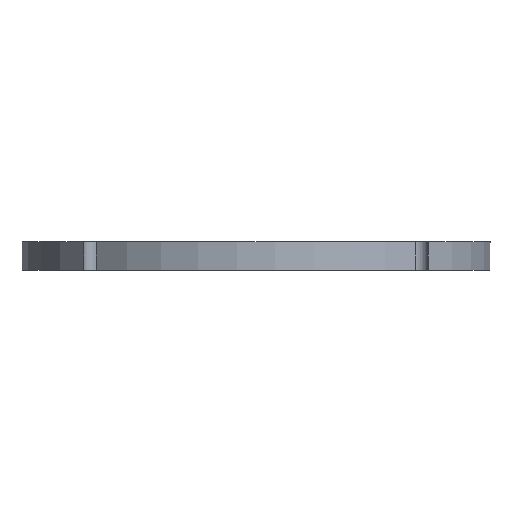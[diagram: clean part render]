
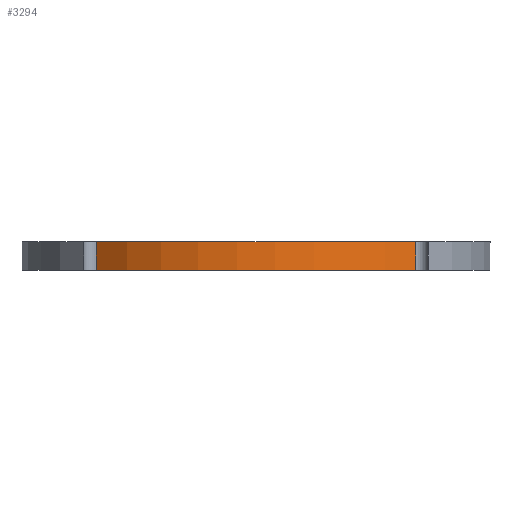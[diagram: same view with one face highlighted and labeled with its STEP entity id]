
A CAD part, front view. The second image highlights one B-rep face of the part: STEP entity #3294.
In plain terms, the highlighted cylindrical face has radius 33 mm (diameter 66 mm), a partial arc.
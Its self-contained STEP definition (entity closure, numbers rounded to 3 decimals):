
#71 = PLANE('',#72);
#72 = AXIS2_PLACEMENT_3D('',#73,#74,#75);
#73 = CARTESIAN_POINT('',(0.,0.,0.));
#74 = DIRECTION('',(0.,0.,1.));
#75 = DIRECTION('',(1.,0.,-0.));
#124 = PLANE('',#125);
#125 = AXIS2_PLACEMENT_3D('',#126,#127,#128);
#126 = CARTESIAN_POINT('',(0.,0.,4.));
#127 = DIRECTION('',(0.,0.,1.));
#128 = DIRECTION('',(1.,0.,-0.));
#283 = VERTEX_POINT('',#284);
#284 = CARTESIAN_POINT('',(-22.421,-24.214,4.));
#303 = CYLINDRICAL_SURFACE('',#304,1.6);
#304 = AXIS2_PLACEMENT_3D('',#305,#306,#307);
#305 = CARTESIAN_POINT('',(-22.627,-22.627,-1.));
#306 = DIRECTION('',(0.,0.,1.));
#307 = DIRECTION('',(1.,0.,-0.));
#315 = EDGE_CURVE('',#316,#283,#318,.T.);
#316 = VERTEX_POINT('',#317);
#317 = CARTESIAN_POINT('',(22.421,-24.214,4.));
#318 = SURFACE_CURVE('',#319,(#324,#335),.PCURVE_S1.);
#319 = CIRCLE('',#320,33.);
#320 = AXIS2_PLACEMENT_3D('',#321,#322,#323);
#321 = CARTESIAN_POINT('',(0.,0.,4.));
#322 = DIRECTION('',(0.,0.,-1.));
#323 = DIRECTION('',(0.734,0.679,0.));
#324 = PCURVE('',#124,#325);
#325 = DEFINITIONAL_REPRESENTATION('',(#326),#334);
#326 = ( BOUNDED_CURVE() B_SPLINE_CURVE(2,(#327,#328,#329,#330,#331,#332
,#333),.UNSPECIFIED.,.T.,.F.) B_SPLINE_CURVE_WITH_KNOTS((1,2,2,2,2,1),(
    -2.094,0.,2.094,4.189,6.283,
8.378),.UNSPECIFIED.) CURVE() GEOMETRIC_REPRESENTATION_ITEM() 
RATIONAL_B_SPLINE_CURVE((1.,0.5,1.,0.5,1.,0.5,1.)) REPRESENTATION_ITEM(
  '') );
#327 = CARTESIAN_POINT('',(24.214,22.421));
#328 = CARTESIAN_POINT('',(63.048,-19.519));
#329 = CARTESIAN_POINT('',(7.31,-32.18));
#330 = CARTESIAN_POINT('',(-48.428,-44.841));
#331 = CARTESIAN_POINT('',(-31.524,9.76));
#332 = CARTESIAN_POINT('',(-14.62,64.36));
#333 = CARTESIAN_POINT('',(24.214,22.421));
#334 = ( GEOMETRIC_REPRESENTATION_CONTEXT(2) 
PARAMETRIC_REPRESENTATION_CONTEXT() REPRESENTATION_CONTEXT('2D SPACE',''
  ) );
#335 = PCURVE('',#336,#341);
#336 = CYLINDRICAL_SURFACE('',#337,33.);
#337 = AXIS2_PLACEMENT_3D('',#338,#339,#340);
#338 = CARTESIAN_POINT('',(0.,0.,0.));
#339 = DIRECTION('',(0.,0.,1.));
#340 = DIRECTION('',(1.,0.,-0.));
#341 = DEFINITIONAL_REPRESENTATION('',(#342),#346);
#342 = LINE('',#343,#344);
#343 = CARTESIAN_POINT('',(7.03,4.));
#344 = VECTOR('',#345,1.);
#345 = DIRECTION('',(-1.,-0.));
#346 = ( GEOMETRIC_REPRESENTATION_CONTEXT(2) 
PARAMETRIC_REPRESENTATION_CONTEXT() REPRESENTATION_CONTEXT('2D SPACE',''
  ) );
#365 = CYLINDRICAL_SURFACE('',#366,1.6);
#366 = AXIS2_PLACEMENT_3D('',#367,#368,#369);
#367 = CARTESIAN_POINT('',(22.627,-22.627,-1.));
#368 = DIRECTION('',(0.,0.,1.));
#369 = DIRECTION('',(1.,0.,-0.));
#3121 = VERTEX_POINT('',#3122);
#3122 = CARTESIAN_POINT('',(-22.421,-24.214,0.));
#3144 = EDGE_CURVE('',#3121,#3145,#3147,.T.);
#3145 = VERTEX_POINT('',#3146);
#3146 = CARTESIAN_POINT('',(22.421,-24.214,0.));
#3147 = SURFACE_CURVE('',#3148,(#3153,#3160),.PCURVE_S1.);
#3148 = CIRCLE('',#3149,33.);
#3149 = AXIS2_PLACEMENT_3D('',#3150,#3151,#3152);
#3150 = CARTESIAN_POINT('',(0.,0.,0.));
#3151 = DIRECTION('',(0.,-0.,1.));
#3152 = DIRECTION('',(0.679,0.734,0.));
#3153 = PCURVE('',#71,#3154);
#3154 = DEFINITIONAL_REPRESENTATION('',(#3155),#3159);
#3155 = CIRCLE('',#3156,33.);
#3156 = AXIS2_PLACEMENT_2D('',#3157,#3158);
#3157 = CARTESIAN_POINT('',(0.,0.));
#3158 = DIRECTION('',(0.679,0.734));
#3159 = ( GEOMETRIC_REPRESENTATION_CONTEXT(2) 
PARAMETRIC_REPRESENTATION_CONTEXT() REPRESENTATION_CONTEXT('2D SPACE',''
  ) );
#3160 = PCURVE('',#336,#3161);
#3161 = DEFINITIONAL_REPRESENTATION('',(#3162),#3166);
#3162 = LINE('',#3163,#3164);
#3163 = CARTESIAN_POINT('',(0.824,0.));
#3164 = VECTOR('',#3165,1.);
#3165 = DIRECTION('',(1.,0.));
#3166 = ( GEOMETRIC_REPRESENTATION_CONTEXT(2) 
PARAMETRIC_REPRESENTATION_CONTEXT() REPRESENTATION_CONTEXT('2D SPACE',''
  ) );
#3275 = EDGE_CURVE('',#3145,#316,#3276,.T.);
#3276 = SURFACE_CURVE('',#3277,(#3281,#3287),.PCURVE_S1.);
#3277 = LINE('',#3278,#3279);
#3278 = CARTESIAN_POINT('',(22.421,-24.214,0.));
#3279 = VECTOR('',#3280,1.);
#3280 = DIRECTION('',(0.,0.,1.));
#3281 = PCURVE('',#365,#3282);
#3282 = DEFINITIONAL_REPRESENTATION('',(#3283),#3286);
#3283 = B_SPLINE_CURVE_WITH_KNOTS('',1,(#3284,#3285),.UNSPECIFIED.,.F.,
  .F.,(2,2),(0.,4.),.PIECEWISE_BEZIER_KNOTS.);
#3284 = CARTESIAN_POINT('',(4.583,1.));
#3285 = CARTESIAN_POINT('',(4.583,5.));
#3286 = ( GEOMETRIC_REPRESENTATION_CONTEXT(2) 
PARAMETRIC_REPRESENTATION_CONTEXT() REPRESENTATION_CONTEXT('2D SPACE',''
  ) );
#3287 = PCURVE('',#336,#3288);
#3288 = DEFINITIONAL_REPRESENTATION('',(#3289),#3292);
#3289 = B_SPLINE_CURVE_WITH_KNOTS('',1,(#3290,#3291),.UNSPECIFIED.,.F.,
  .F.,(2,2),(0.,4.),.PIECEWISE_BEZIER_KNOTS.);
#3290 = CARTESIAN_POINT('',(5.459,0.));
#3291 = CARTESIAN_POINT('',(5.459,4.));
#3292 = ( GEOMETRIC_REPRESENTATION_CONTEXT(2) 
PARAMETRIC_REPRESENTATION_CONTEXT() REPRESENTATION_CONTEXT('2D SPACE',''
  ) );
#3294 = ADVANCED_FACE('',(#3295),#336,.T.);
#3295 = FACE_BOUND('',#3296,.T.);
#3296 = EDGE_LOOP('',(#3297,#3316,#3317,#3318));
#3297 = ORIENTED_EDGE('',*,*,#3298,.F.);
#3298 = EDGE_CURVE('',#3121,#283,#3299,.T.);
#3299 = SURFACE_CURVE('',#3300,(#3304,#3310),.PCURVE_S1.);
#3300 = LINE('',#3301,#3302);
#3301 = CARTESIAN_POINT('',(-22.421,-24.214,0.));
#3302 = VECTOR('',#3303,1.);
#3303 = DIRECTION('',(0.,0.,1.));
#3304 = PCURVE('',#336,#3305);
#3305 = DEFINITIONAL_REPRESENTATION('',(#3306),#3309);
#3306 = B_SPLINE_CURVE_WITH_KNOTS('',1,(#3307,#3308),.UNSPECIFIED.,.F.,
  .F.,(2,2),(0.,4.),.PIECEWISE_BEZIER_KNOTS.);
#3307 = CARTESIAN_POINT('',(3.965,0.));
#3308 = CARTESIAN_POINT('',(3.965,4.));
#3309 = ( GEOMETRIC_REPRESENTATION_CONTEXT(2) 
PARAMETRIC_REPRESENTATION_CONTEXT() REPRESENTATION_CONTEXT('2D SPACE',''
  ) );
#3310 = PCURVE('',#303,#3311);
#3311 = DEFINITIONAL_REPRESENTATION('',(#3312),#3315);
#3312 = B_SPLINE_CURVE_WITH_KNOTS('',1,(#3313,#3314),.UNSPECIFIED.,.F.,
  .F.,(2,2),(0.,4.),.PIECEWISE_BEZIER_KNOTS.);
#3313 = CARTESIAN_POINT('',(4.842,1.));
#3314 = CARTESIAN_POINT('',(4.842,5.));
#3315 = ( GEOMETRIC_REPRESENTATION_CONTEXT(2) 
PARAMETRIC_REPRESENTATION_CONTEXT() REPRESENTATION_CONTEXT('2D SPACE',''
  ) );
#3316 = ORIENTED_EDGE('',*,*,#3144,.T.);
#3317 = ORIENTED_EDGE('',*,*,#3275,.T.);
#3318 = ORIENTED_EDGE('',*,*,#315,.T.);
